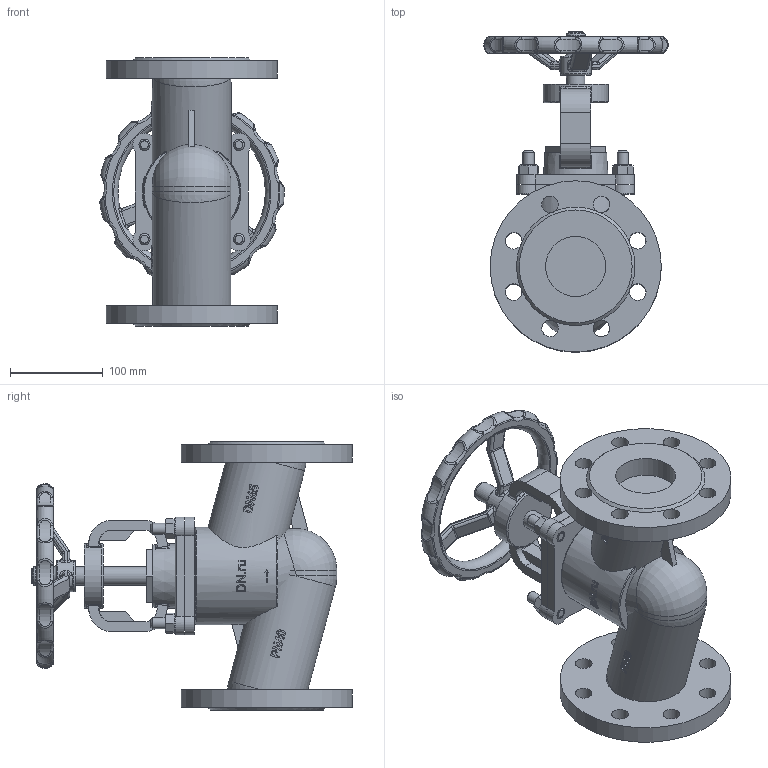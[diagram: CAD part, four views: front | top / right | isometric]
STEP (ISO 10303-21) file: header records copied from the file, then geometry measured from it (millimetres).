
FILE_DESCRIPTION(('STEP AP242'), '1');
FILE_NAME('VSO2130M-F-S 孰囡囗 玎镱痦 DN.ru 捏65 畜40', '2026-04-27T20:36:25', ('DN.ru'), (''), 'C3D Converter', 'C3D Toolkit', '');
FILE_SCHEMA(('AP242_MANAGED_MODEL_BASED_3D_ENGINEERING_MIM_LF { 1 0 10303 442 1 1 4 }'));
Length unit declared in the file: millimetre
Products named in the file (1): VSO2130M-F-S
Bounding box: 199.26 x 346.5 x 290 mm (x, y, z)
Volume: 3741387.4 mm3; surface area: 386639.8 mm2
Topology: 1 solids, 1 shells, 926 faces, 2402 edges, 1498 vertices
Faces by surface type: plane 269, extrusion 223, cylinder 160, torus 122, bspline 68, sphere 64, cone 20
Full cylindrical faces by diameter (mm): 12 x12, 18 x16, 20 x2, 20.325 x1, 32.5 x1, 33.875 x1, 65 x2, 70 x1, 85 x2, 90 x1, 105 x1, 185 x2
Entity records: 72402 total; most frequent: CARTESIAN_POINT 44073, ORIENTED_EDGE 4600, DIRECTION 3659, EDGE_CURVE 2300, VERTEX_POINT 1490, AXIS2_PLACEMENT_3D 1350, EDGE_LOOP 1086, B_SPLINE_CURVE_WITH_KNOTS 1002
